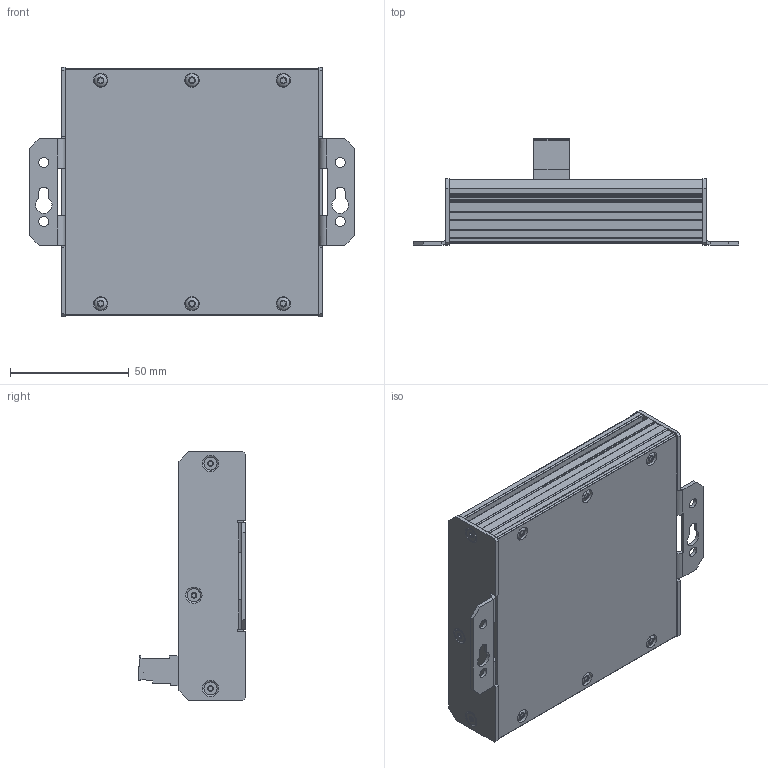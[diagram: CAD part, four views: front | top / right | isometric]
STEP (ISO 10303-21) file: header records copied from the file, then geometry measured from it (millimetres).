
FILE_DESCRIPTION(('TFLEX Exchange Step'),'2;1');
FILE_NAME('TZCA01403A_NITE-RW16-FE.stp', '2019-10-25T13:26:50+02:00',('User'),('Unknown organisation'),'TFLEX Exchange 2019.0','T-FLEX CAD','Unknown authorisation');
FILE_SCHEMA( ('AUTOMOTIVE_DESIGN { 1 0 10303 214 1 1 1 1 }') );
Length unit declared in the file: millimetre
Products named in the file (1): TZCA01403A_NITE-RW16-FE
Bounding box: 137 x 45 x 105 mm (x, y, z)
Volume: 282534.9 mm3; surface area: 72588.6 mm2
Topology: 2 solids, 10 shells, 3036 faces, 8680 edges, 5809 vertices
Faces by surface type: plane 1967, cylinder 732, bspline 311, cone 15, sphere 6, extrusion 5
Full cylindrical faces by diameter (mm): 0.5 x128, 1.3 x3, 2.2 x3, 3 x9, 3.2 x6, 3.75 x3, 3.95 x3, 5.5 x12, 6 x6
Entity records: 119496 total; most frequent: CARTESIAN_POINT 49119, ORIENTED_EDGE 17104, DIRECTION 9743, EDGE_CURVE 8552, VERTEX_POINT 5809, B_SPLINE_CURVE_WITH_KNOTS 5146, AXIS2_PLACEMENT_3D 3606, EDGE_LOOP 3471
